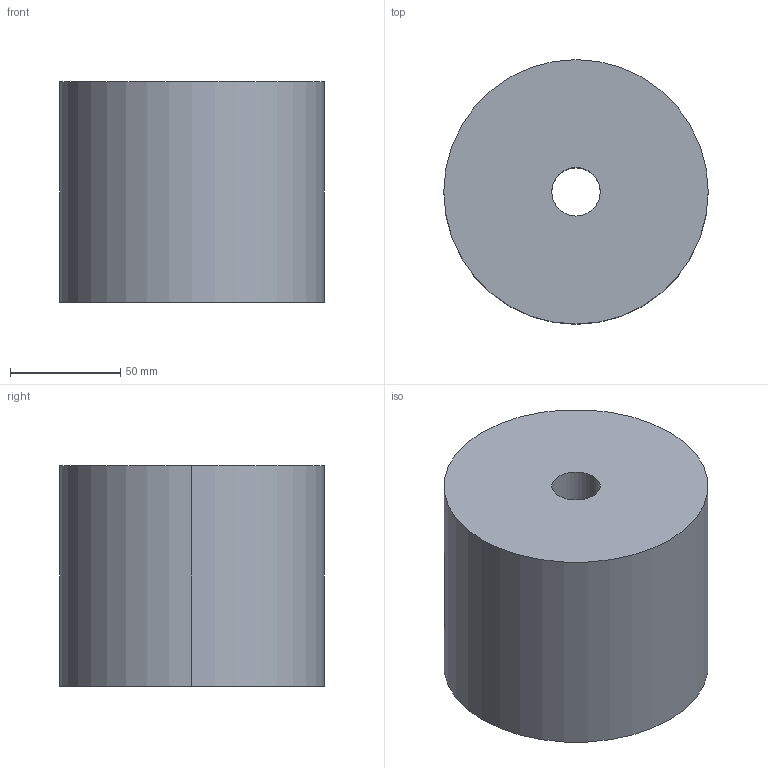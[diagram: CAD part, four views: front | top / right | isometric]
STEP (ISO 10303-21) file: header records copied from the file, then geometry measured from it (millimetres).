
FILE_DESCRIPTION(/* description */ (''),/* implementation_level */ '2;1');
FILE_NAME(/* name */ '3d_pa120-100_04902_r00.stp',/* time_stamp */ '2011-01-10T14:11:58+09:00',/* author */ ('MISUMI'),/* organization */ (''),/* preprocessor_version */ 'ST-DEVELOPER v11',/* originating_system */ 'UGS - NX 5.0',/* authorisation */ '');
FILE_SCHEMA (('CONFIG_CONTROL_DESIGN'));
Length unit declared in the file: millimetre
Products named in the file (1): 3d_pa120-100_04902_r00
Bounding box: 120 x 120 x 100 mm (x, y, z)
Volume: 1092960.1 mm3; surface area: 66469.8 mm2
Topology: 1 solids, 1 shells, 6 faces, 12 edges, 8 vertices
Faces by surface type: cylinder 4, plane 2
Entity records: 254 total; most frequent: DIRECTION 34, CARTESIAN_POINT 27, ORIENTED_EDGE 24, AXIS2_PLACEMENT_3D 15, EDGE_CURVE 12, EDGE_LOOP 8, VERTEX_POINT 8, CIRCLE 8
